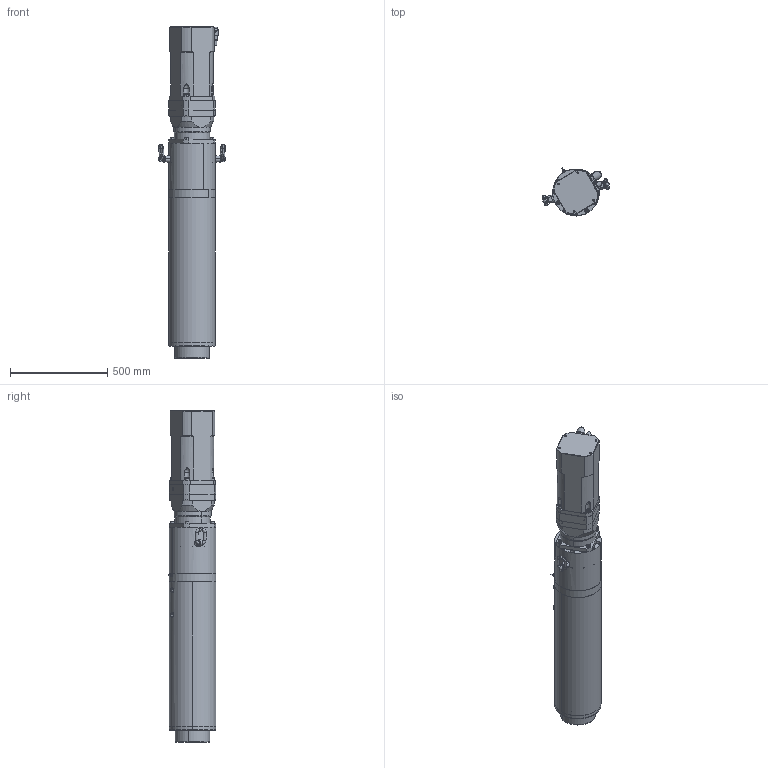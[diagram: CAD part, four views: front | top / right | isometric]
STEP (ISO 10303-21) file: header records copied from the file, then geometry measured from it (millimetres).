
FILE_DESCRIPTION (( 'STEP AP203' ), '1' );
FILE_NAME ('MLN5I2000-035-010HG0.STEP', '2016-06-21T13:02:03', ( 'paulsen' ), ( '' ), 'SwSTEP 2.0', 'SolidWorks 2013', '' );
FILE_SCHEMA (( 'CONFIG_CONTROL_DESIGN' ));
Length unit declared in the file: millimetre
Products named in the file (1): MLN5I2000-035-010HG0
Bounding box: 345.55 x 245.71 x 1707 mm (x, y, z)
Surface area: 3286190.3 mm2 (no closed solid volume)
Topology: 0 solids, 36 shells, 1320 faces, 3146 edges, 1918 vertices
Faces by surface type: cylinder 554, plane 478, cone 212, torus 70, bspline 6
Entity records: 39660 total; most frequent: CARTESIAN_POINT 8947, DIRECTION 6791, ORIENTED_EDGE 6012, EDGE_CURVE 3012, AXIS2_PLACEMENT_3D 2662, VERTEX_POINT 1918, EDGE_LOOP 1568, VECTOR 1467
